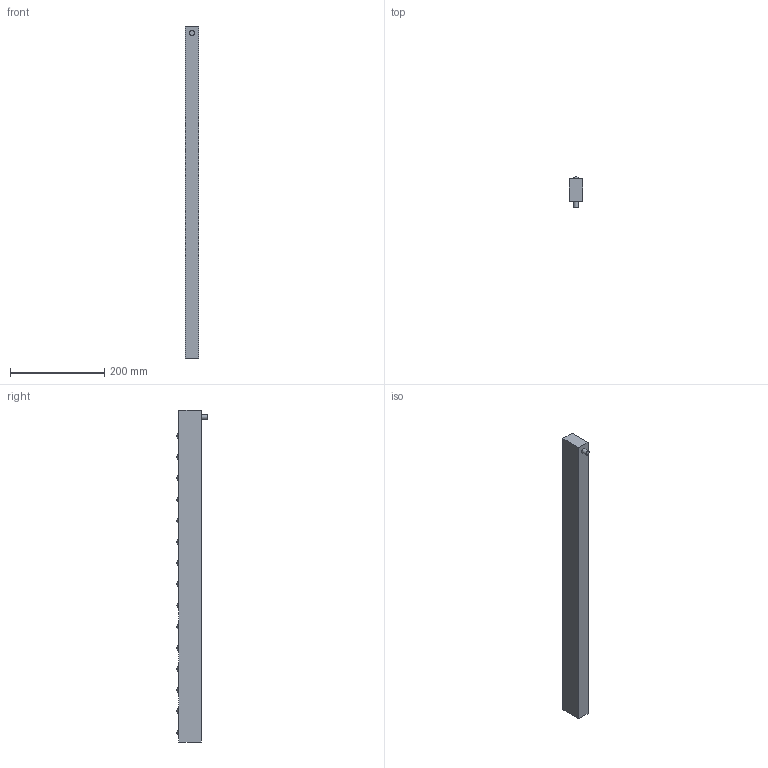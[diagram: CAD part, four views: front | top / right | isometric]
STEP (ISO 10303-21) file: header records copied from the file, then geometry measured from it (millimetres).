
FILE_DESCRIPTION(/* description */ (''),/* implementation_level */ '2;1');
FILE_NAME(/* name */ 'V:\Shrinkwrap\EMB\EMB - SHRINKWRAP\EMP28\EMB28-15_Shrinkwrap_1.stp',/* time_stamp */ '2022-08-12T11:27:51+02:00',/* author */ ('cw'),/* organization */ (''),/* preprocessor_version */ 'ST-DEVELOPER v17',/* originating_system */ 'Autodesk Inventor 2019',/* authorisation */ '');
FILE_SCHEMA (('AUTOMOTIVE_DESIGN { 1 0 10303 214 3 1 1 }'));
Length unit declared in the file: millimetre
Products named in the file (1): EMB28-15_Shrinkwrap_1
Bounding box: 27.8 x 64.05 x 705 mm (x, y, z)
Volume: 937062.5 mm3; surface area: 113866.2 mm2
Topology: 1 solids, 1 shells, 59 faces, 107 edges, 86 vertices
Faces by surface type: plane 25, cylinder 19, sphere 15
Full cylindrical faces by diameter (mm): 10 x1, 11 x1, 16 x1, 18 x1, 21.5 x15
Entity records: 1665 total; most frequent: DIRECTION 299, CARTESIAN_POINT 251, ORIENTED_EDGE 210, AXIS2_PLACEMENT_3D 134, EDGE_CURVE 105, EDGE_LOOP 93, VERTEX_POINT 82, CIRCLE 74
